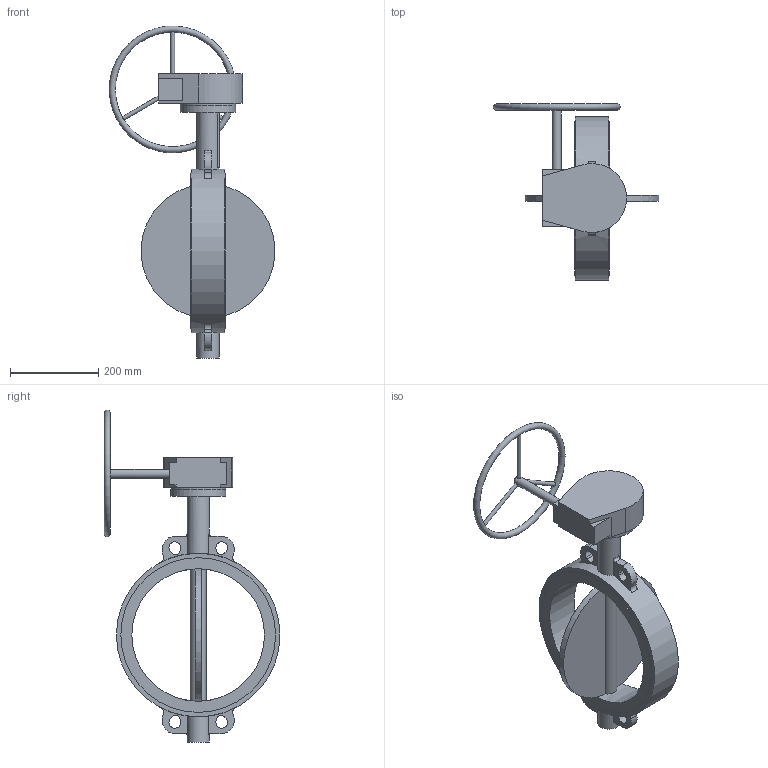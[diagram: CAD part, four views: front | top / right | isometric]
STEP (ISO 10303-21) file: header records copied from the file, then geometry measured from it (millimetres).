
FILE_DESCRIPTION(('STEP AP203'), '1');
FILE_NAME('青蜮铕 017WDN300 疱潴牝铕', '', ('UNSPECIFIED'), ('UNSPECIFIED'), 'ASCON STEP Converter 1.6', 'ASCON Math Kernel', '');
FILE_SCHEMA(('CONFIG_CONTROL_DESIGN'));
Length unit declared in the file: millimetre
Bounding box: 374.41 x 398 x 750.99 mm (x, y, z)
Volume: 1871179.8 mm3; surface area: 637213.2 mm2
Topology: 1 solids, 2 shells, 726 faces, 2125 edges, 1372 vertices
Faces by surface type: cylinder 517, plane 204, torus 5
Full cylindrical faces by diameter (mm): 8.5 x4, 9 x3, 12 x4, 20 x1, 31.6 x1, 50 x2, 70 x1, 125 x2, 300 x1, 350 x2, 370 x1
Entity records: 32648 total; most frequent: CARTESIAN_POINT 6609, DIRECTION 4611, ORIENTED_EDGE 4139, EDGE_CURVE 2101, AXIS2_PLACEMENT_3D 1815, VERTEX_POINT 1371, CIRCLE 1088, LINE 981
